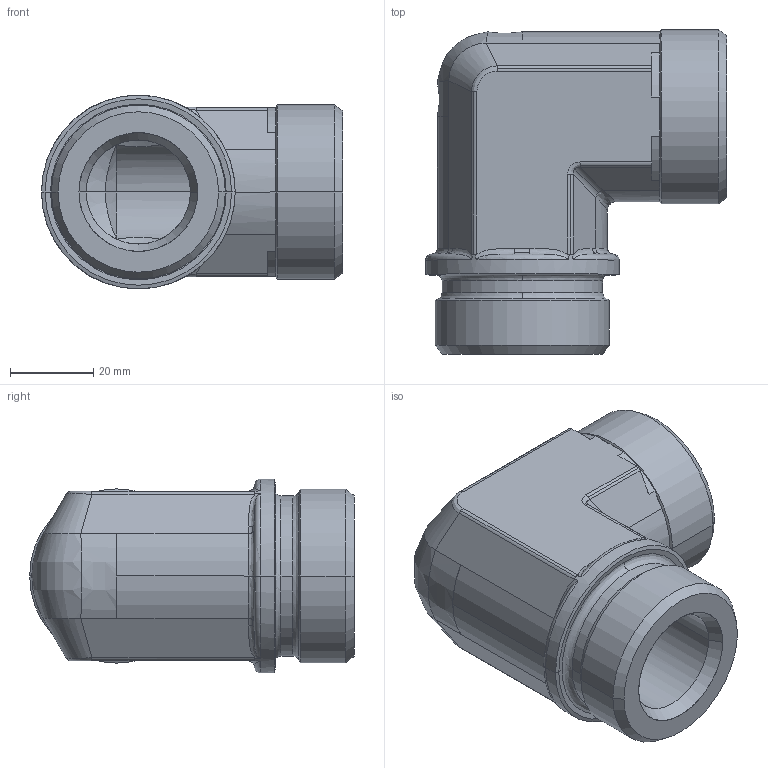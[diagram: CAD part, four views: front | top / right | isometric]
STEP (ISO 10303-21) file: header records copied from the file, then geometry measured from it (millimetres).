
FILE_DESCRIPTION((''),'2;1');
FILE_NAME('102322.stp','2007-10-31T10:25:19',(''),(''),'AutoCAD STEP 2000i','AutoCAD 2000i',', , ');
FILE_SCHEMA(('CONFIG_CONTROL_DESIGN'));
Length unit declared in the file: millimetre
Products named in the file (2): 102322.0; 3090#0
Assembly tree (1 placements, depth 2):
  102322.0
    3090#0
Bounding box: 72.25 x 77.91 x 46.5 mm (x, y, z)
Volume: 90607 mm3; surface area: 24618.2 mm2
Topology: 1 solids, 1 shells, 163 faces, 394 edges, 234 vertices
Faces by surface type: cylinder 62, plane 41, bspline 30, cone 24, torus 6
Entity records: 7018 total; most frequent: CARTESIAN_POINT 3132, DIRECTION 835, ORIENTED_EDGE 788, EDGE_CURVE 394, AXIS2_PLACEMENT_3D 349, VERTEX_POINT 234, CIRCLE 196, EDGE_LOOP 166
